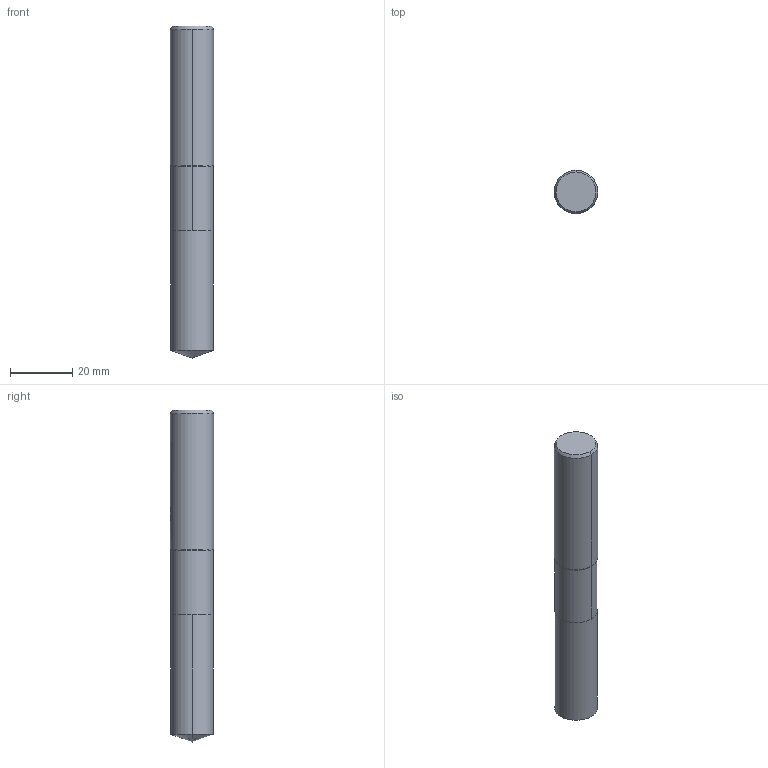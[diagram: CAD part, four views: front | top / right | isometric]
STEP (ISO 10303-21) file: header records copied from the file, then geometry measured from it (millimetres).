
FILE_DESCRIPTION(('no description'),'unknown implementation level');
FILE_NAME('solidOLJwZ_Co36MqBOKIYX01FkvQs9k_1.STP',' ',('CIMSOURCE GmbH'),('CADClick - KiM GmbH - www.kimweb.de'),'unknown preprocess','ACIS','unknown authorization');
FILE_SCHEMA(('automotive_design'));
Length unit declared in the file: millimetre
Products named in the file (2): NOCUT; CUT
Bounding box: 14 x 14 x 107 mm (x, y, z)
Volume: 15808.8 mm3; surface area: 5130.7 mm2
Topology: 2 solids, 2 shells, 28 faces, 67 edges, 41 vertices
Faces by surface type: cylinder 14, plane 8, cone 6
Entity records: 1863 total; most frequent: CARTESIAN_POINT 420, DIRECTION 139, STYLED_ITEM 136, PRESENTATION_STYLE_ASSIGNMENT 136, COLOUR_RGB 136, ORIENTED_EDGE 130, EDGE_CURVE 65, CURVE_STYLE 65
